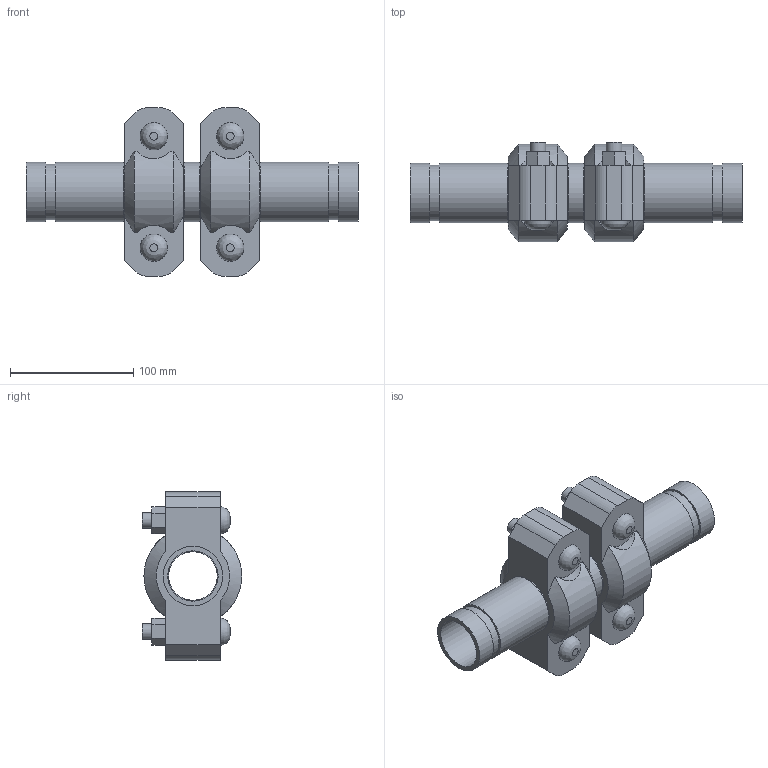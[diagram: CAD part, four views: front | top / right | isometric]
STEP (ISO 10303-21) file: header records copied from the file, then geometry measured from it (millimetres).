
FILE_DESCRIPTION(/* description */ ('VIC EXPANSION JOINT 2 COUPLINGS EXPANDED STYLE 155 (OGS)','CAx-IF Rec.Pracs.---Representation and Presentation of Product Manufacturing Information (PMI)---4.0---2014-10-13'),/* implementation_level */ '2;1');
FILE_NAME(/* name */ 'C:\Users\kkamble\AppData\Roaming\Autodesk\ApplicationPlugins\Victaulic.Temp\A706\Victaulic_IPS_Expansion Joint_Expanded_2 Couplings_Style 155 (OGS)_1.5 (40).stp',/* time_stamp */ '2021-06-26T23:56:07+02:00',/* author */ ('kkamble'),/* organization */ ('Victaulic'),/* preprocessor_version */ 'ST-DEVELOPER v17.2',/* originating_system */ 'Autodesk Inventor 2019',/* authorisation */ '');
FILE_SCHEMA (('AP242_MANAGED_MODEL_BASED_3D_ENGINEERING_MIM_LF { 1 0 10303 442 1 1 4 }'));
Length unit declared in the file: inch
Products named in the file (4): 155-01.5; Nipple-01.5; Nipple-01.5_1; 077-01.5
Assembly tree (5 placements, depth 2):
  155-01.5
    Nipple-01.5  x2
    Nipple-01.5_1
    077-01.5  x2
Bounding box: 269.49 x 81.03 x 136.65 mm (x, y, z)
Volume: 654600.7 mm3; surface area: 171814.2 mm2
Topology: 5 solids, 9 shells, 158 faces, 380 edges, 268 vertices
Faces by surface type: plane 90, cylinder 56, cone 8, bspline 4
Full cylindrical faces by diameter (mm): 12.7 x8, 14.605 x4, 39.37 x2, 40.894 x3, 45.085 x6, 48.26 x13
Entity records: 2969 total; most frequent: CARTESIAN_POINT 597, DIRECTION 473, ORIENTED_EDGE 410, EDGE_CURVE 205, AXIS2_PLACEMENT_3D 188, VERTEX_POINT 146, EDGE_LOOP 111, LINE 97
